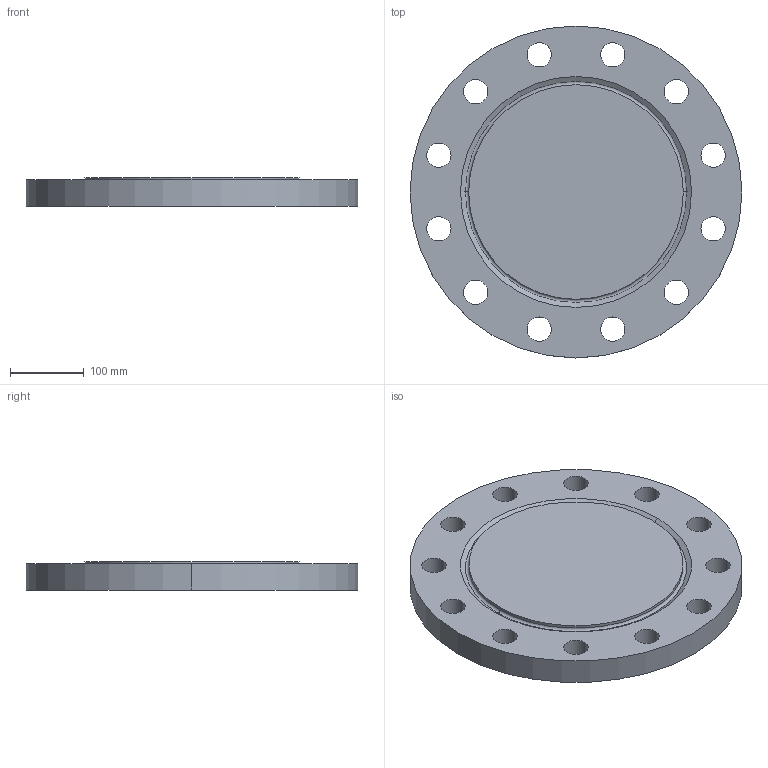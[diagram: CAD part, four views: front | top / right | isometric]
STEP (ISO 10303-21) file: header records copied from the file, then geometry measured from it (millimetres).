
FILE_DESCRIPTION (( 'STEP AP214' ), '1' );
FILE_NAME ('PN40 DN250 Type 05 - Type H Face.STEP', '2019-01-05T16:13:58', ( '' ), ( '' ), 'SwSTEP 2.0', 'SolidWorks 2019', '' );
FILE_SCHEMA (( 'AUTOMOTIVE_DESIGN' ));
Length unit declared in the file: millimetre
Products named in the file (1): PN40 DN250 Type 05 - Type H Face
Bounding box: 450 x 450 x 38 mm (x, y, z)
Volume: 5418360.8 mm3; surface area: 398343.5 mm2
Topology: 1 solids, 1 shells, 35 faces, 92 edges, 60 vertices
Faces by surface type: cylinder 28, plane 3, torus 2, cone 2
Entity records: 1198 total; most frequent: DIRECTION 226, CARTESIAN_POINT 188, ORIENTED_EDGE 184, AXIS2_PLACEMENT_3D 98, EDGE_CURVE 92, CIRCLE 62, VERTEX_POINT 60, EDGE_LOOP 60
